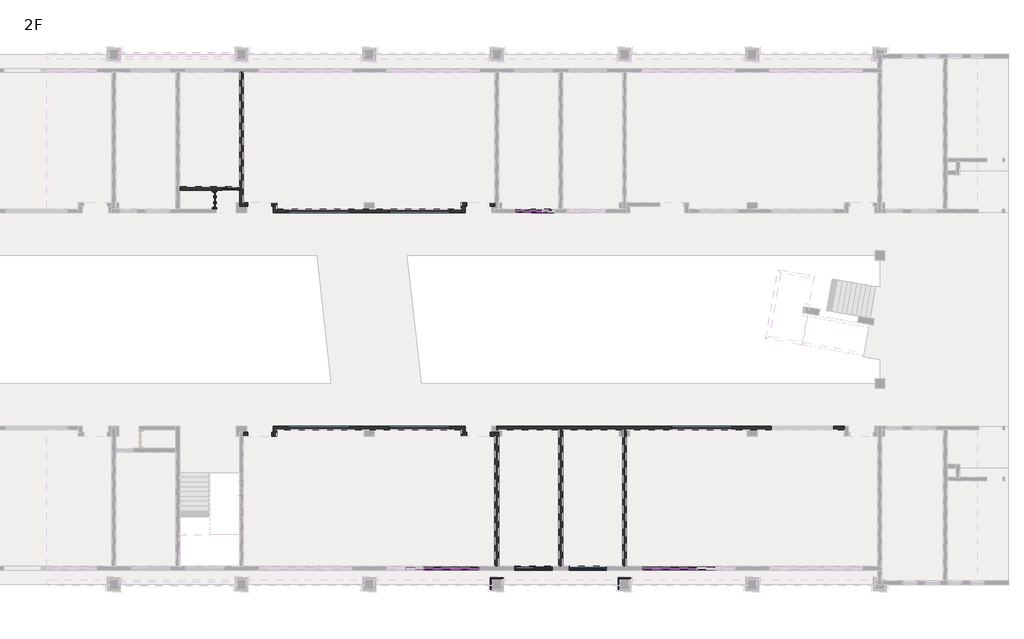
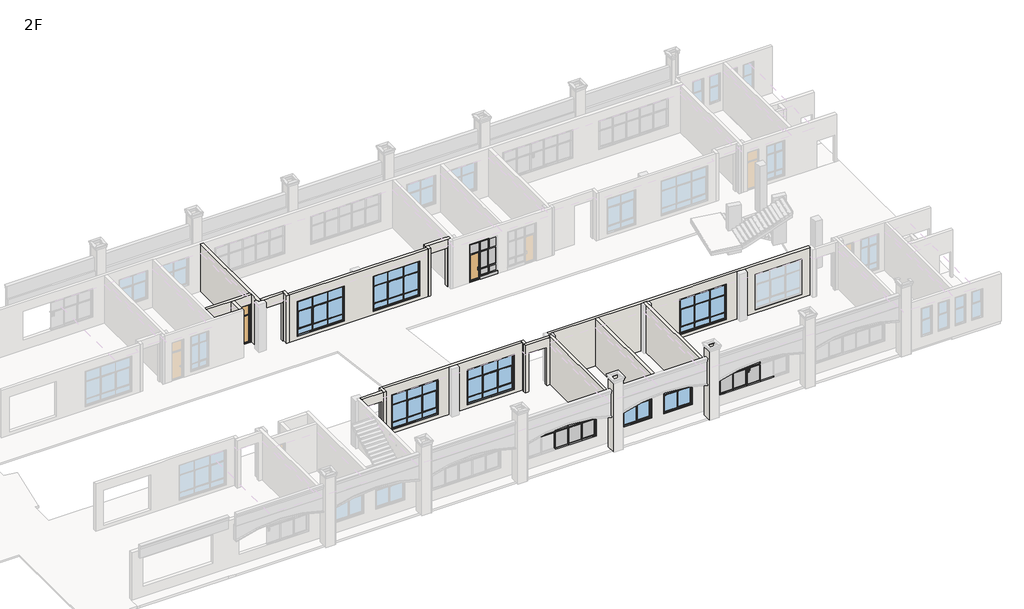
# One storey, part 4 of 16: 52 members, 21 walls, 17 plates, 7 windows, 3 doors.
"""IFC4 building model written with IfcOpenShell, lengths in millimetres."""

from ifc_helpers import new_model, si_unit, frame, origin, place, context, project, spatial, polyline, outline, extrude, faceted_brep, transform, mapped, element, save
from components import door_98f1c622, door_014e05d9, m2_m2_a1934b10, member_7564be38, member_1f4d75dd, member_0b7842ad, member_163d5e45, member_ffafc35e, member_2b011958, member_9c26cac3, member_6c42befd, member_a374fdad, member_d4bc27cc, member_3251d295, member_f9d68b3c, member_ef2f5788, member_68d13e3f, member_a211941a, member_adcc9943, member_f478ca5a, member_964d2677, member_b8dbbb25, member_8a69f4a4, member_c89433b5, member_21953a3b, member_fbd0fd80, member_b6ae775c, plate_f4dba16c, plate_1cc4df2b, plate_4fa5932a, plate_00f9c624, plate_18a10205, plate_942ffe46, plate_457c613e, plate_cc9028c0, plate_1c3dccf0, plate_5ac164bc, plate_3a849303, plate_0b4a2fd4, lc4_lc4_4954e093, lc5_lc5_223d64ff, lc5_lc5_9ec79463

model = new_model("IFC4")

# Units and contexts
model_context = context("Model", 3, world=origin())
ifc_project = project(units=[si_unit("LENGTHUNIT", "METRE", prefix="MILLI")], contexts=[model_context])

# Site, building, storey
site = spatial("IfcSite", under=ifc_project)
building = spatial("IfcBuilding", under=site)
storey = spatial("IfcBuildingStorey", under=building, Name="2F", Elevation=4200.0)

# Doors
placement = place(None, origin())
door_shape = door_98f1c622(model_context)
element("IfcDoor", 1, ObjectType="门嵌板_单开门2 : 门嵌板_单开门2", at=placement, inside=storey, context=model_context, shape_type="MappedRepresentation", body=[
    mapped(door_shape, transform((52699.9999993, 23399.6954639, 4300.0), x_axis=(-1.0, 0.0, 0.0), y_axis=(0.0, -1.0, 0.0), z_axis=(0.0, 0.0, 1.0))),
])
door_2_shape = door_014e05d9(model_context)
element("IfcDoor", 2, ObjectType="FM(丙）1 : FM(丙）1", at=placement, inside=storey, context=model_context, shape_type="MappedRepresentation", body=[
    mapped(door_2_shape, transform((33300.0000031, 24100.0, 4200.0), x_axis=(0.0, -1.0, 0.0), y_axis=(1.0, 0.0, 0.0), z_axis=(0.0, 0.0, 1.0))),
])
m2_m2_shape = m2_m2_a1934b10(model_context)
element("IfcDoor", 3, ObjectType="M2 : M2", at=placement, inside=storey, context=model_context, shape_type="MappedRepresentation", body=[
    mapped(m2_m2_shape, transform((34300.0000005, 24799.6954637, 4200.0), x_axis=(-1.0, 0.0, 0.0), y_axis=(0.0, -1.0, 0.0), z_axis=(0.0, 0.0, 1.0))),
])

# Members
member_shape = member_7564be38(model_context)
element("IfcMember", 4, ObjectType="矩形竖梃 : 教学楼 – 矩形竖梃 – 100x150mm", at=placement, inside=storey, context=model_context, shape_type="MappedRepresentation", body=[
    mapped(member_shape, transform((49900.0, 990.0, 7600.0), x_axis=(0.0, 0.0, 1.0), y_axis=(0.0, -1.0, 0.0), z_axis=(1.0, 0.0, 0.0))),
])
element("IfcMember", 5, ObjectType="矩形竖梃 : 教学楼 – 矩形竖梃 – 100x150mm", at=placement, inside=storey, context=model_context, shape_type="MappedRepresentation", body=[
    mapped(member_shape, transform((60100.0, 990.0, 5100.0), x_axis=(0.0, 0.0, -1.0), y_axis=(0.0, -1.0, 0.0), z_axis=(-1.0, 0.0, 0.0))),
])
member_2_shape = member_1f4d75dd(model_context)
element("IfcMember", 6, ObjectType="矩形竖梃 : 教学楼 – 矩形竖梃 – 50x150mm", at=placement, inside=storey, context=model_context, shape_type="MappedRepresentation", body=[
    mapped(member_2_shape, transform((46450.0, 990.0, 5200.0), x_axis=(1.0, 0.0, 0.0), y_axis=(0.0, -1.0, 0.0), z_axis=(0.0, 0.0, -1.0))),
])
element("IfcMember", 7, ObjectType="矩形竖梃 : 教学楼 – 矩形竖梃 – 50x150mm", at=placement, inside=storey, context=model_context, shape_type="MappedRepresentation", body=[
    mapped(member_2_shape, transform((47550.0, 990.0, 5200.0), x_axis=(1.0, 0.0, 0.0), y_axis=(0.0, -1.0, 0.0), z_axis=(0.0, 0.0, -1.0))),
])
element("IfcMember", 8, ObjectType="矩形竖梃 : 教学楼 – 矩形竖梃 – 50x150mm", at=placement, inside=storey, context=model_context, shape_type="MappedRepresentation", body=[
    mapped(member_2_shape, transform((62450.0, 990.0, 5200.0), x_axis=(1.0, 0.0, 0.0), y_axis=(0.0, -1.0, 0.0), z_axis=(0.0, 0.0, -1.0))),
])
element("IfcMember", 9, ObjectType="矩形竖梃 : 教学楼 – 矩形竖梃 – 50x150mm", at=placement, inside=storey, context=model_context, shape_type="MappedRepresentation", body=[
    mapped(member_2_shape, transform((63550.0, 990.0, 5200.0), x_axis=(1.0, 0.0, 0.0), y_axis=(0.0, -1.0, 0.0), z_axis=(0.0, 0.0, -1.0))),
])
member_3_shape = member_0b7842ad(model_context)
element("IfcMember", 10, ObjectType="矩形竖梃 : 教学楼 – 矩形竖梃 – 50x150mm", at=placement, inside=storey, context=model_context, shape_type="MappedRepresentation", body=[
    mapped(member_3_shape, transform((61300.0, 990.0, 6650.0), x_axis=(0.0, 0.0, 1.0), y_axis=(0.0, -1.0, 0.0), z_axis=(1.0, 0.0, 0.0))),
])
member_4_shape = member_163d5e45(model_context)
element("IfcMember", 11, ObjectType="矩形竖梃 : 教学楼 – 矩形竖梃 – 50x150mm", at=placement, inside=storey, context=model_context, shape_type="MappedRepresentation", body=[
    mapped(member_4_shape, transform((46450.0, 990.0, 6650.0), x_axis=(0.0, 0.0, 1.0), y_axis=(0.0, -1.0, 0.0), z_axis=(1.0, 0.0, 0.0))),
])
element("IfcMember", 12, ObjectType="矩形竖梃 : 教学楼 – 矩形竖梃 – 50x150mm", at=placement, inside=storey, context=model_context, shape_type="MappedRepresentation", body=[
    mapped(member_4_shape, transform((48700.0, 990.0, 6650.0), x_axis=(0.0, 0.0, 1.0), y_axis=(0.0, -1.0, 0.0), z_axis=(1.0, 0.0, 0.0))),
])
element("IfcMember", 13, ObjectType="矩形竖梃 : 教学楼 – 矩形竖梃 – 50x150mm", at=placement, inside=storey, context=model_context, shape_type="MappedRepresentation", body=[
    mapped(member_4_shape, transform((62450.0, 990.0, 6650.0), x_axis=(0.0, 0.0, 1.0), y_axis=(0.0, -1.0, 0.0), z_axis=(1.0, 0.0, 0.0))),
])
element("IfcMember", 14, ObjectType="矩形竖梃 : 教学楼 – 矩形竖梃 – 50x150mm", at=placement, inside=storey, context=model_context, shape_type="MappedRepresentation", body=[
    mapped(member_3_shape, transform((47550.0, 990.0, 6650.0), x_axis=(0.0, 0.0, 1.0), y_axis=(0.0, -1.0, 0.0), z_axis=(1.0, 0.0, 0.0))),
])
element("IfcMember", 15, ObjectType="矩形竖梃 : 教学楼 – 矩形竖梃 – 50x150mm", at=placement, inside=storey, context=model_context, shape_type="MappedRepresentation", body=[
    mapped(member_3_shape, transform((63550.0, 990.0, 6650.0), x_axis=(0.0, 0.0, 1.0), y_axis=(0.0, -1.0, 0.0), z_axis=(1.0, 0.0, 0.0))),
])
element("IfcMember", 16, ObjectType="矩形竖梃 : 教学楼 – 矩形竖梃 – 50x150mm", at=placement, inside=storey, context=model_context, shape_type="MappedRepresentation", body=[
    mapped(member_3_shape, transform((49800.0, 990.0, 6650.0), x_axis=(0.0, 0.0, 1.0), y_axis=(0.0, -1.0, 0.0), z_axis=(1.0, 0.0, 0.0))),
])
member_5_shape = member_ffafc35e(model_context)
element("IfcMember", 17, ObjectType="矩形竖梃 : 教学楼 – 矩形竖梃 – 100x150mm", at=placement, inside=storey, context=model_context, shape_type="MappedRepresentation", body=[
    mapped(member_5_shape, transform((61300.0, 990.0, 5100.0), x_axis=(0.0, 0.0, -1.0), y_axis=(0.0, -1.0, 0.0), z_axis=(-1.0, 0.0, 0.0))),
])
member_6_shape = member_2b011958(model_context)
element("IfcMember", 18, ObjectType="矩形竖梃 : 教学楼 – 矩形竖梃 – 100x150mm", at=placement, inside=storey, context=model_context, shape_type="MappedRepresentation", body=[
    mapped(member_6_shape, transform((46450.0, 990.0, 5100.0), x_axis=(0.0, 0.0, -1.0), y_axis=(0.0, -1.0, 0.0), z_axis=(-1.0, 0.0, 0.0))),
])
element("IfcMember", 19, ObjectType="矩形竖梃 : 教学楼 – 矩形竖梃 – 100x150mm", at=placement, inside=storey, context=model_context, shape_type="MappedRepresentation", body=[
    mapped(member_6_shape, transform((62450.0, 990.0, 5100.0), x_axis=(0.0, 0.0, -1.0), y_axis=(0.0, -1.0, 0.0), z_axis=(-1.0, 0.0, 0.0))),
])
element("IfcMember", 20, ObjectType="矩形竖梃 : 教学楼 – 矩形竖梃 – 100x150mm", at=placement, inside=storey, context=model_context, shape_type="MappedRepresentation", body=[
    mapped(member_5_shape, transform((47550.0, 990.0, 5100.0), x_axis=(0.0, 0.0, -1.0), y_axis=(0.0, -1.0, 0.0), z_axis=(-1.0, 0.0, 0.0))),
])
element("IfcMember", 21, ObjectType="矩形竖梃 : 教学楼 – 矩形竖梃 – 100x150mm", at=placement, inside=storey, context=model_context, shape_type="MappedRepresentation", body=[
    mapped(member_5_shape, transform((63550.0, 990.0, 5100.0), x_axis=(0.0, 0.0, -1.0), y_axis=(0.0, -1.0, 0.0), z_axis=(-1.0, 0.0, 0.0))),
])
element("IfcMember", 22, ObjectType="矩形竖梃 : 教学楼 – 矩形竖梃 – 100x150mm", at=placement, inside=storey, context=model_context, shape_type="MappedRepresentation", body=[
    mapped(member_shape, transform((48700.0, 990.0, 5100.0), x_axis=(0.0, 0.0, -1.0), y_axis=(0.0, -1.0, 0.0), z_axis=(-1.0, 0.0, 0.0))),
])
element("IfcMember", 23, ObjectType="矩形竖梃 : 教学楼 – 矩形竖梃 – 100x150mm", at=placement, inside=storey, context=model_context, shape_type="MappedRepresentation", body=[
    mapped(member_shape, transform((61300.0, 990.0, 7600.0), x_axis=(0.0, 0.0, 1.0), y_axis=(0.0, -1.0, 0.0), z_axis=(1.0, 0.0, 0.0))),
])
element("IfcMember", 24, ObjectType="矩形竖梃 : 教学楼 – 矩形竖梃 – 100x150mm", at=placement, inside=storey, context=model_context, shape_type="MappedRepresentation", body=[
    mapped(member_5_shape, transform((46450.0, 990.0, 7600.0), x_axis=(0.0, 0.0, 1.0), y_axis=(0.0, -1.0, 0.0), z_axis=(1.0, 0.0, 0.0))),
])
element("IfcMember", 25, ObjectType="矩形竖梃 : 教学楼 – 矩形竖梃 – 100x150mm", at=placement, inside=storey, context=model_context, shape_type="MappedRepresentation", body=[
    mapped(member_5_shape, transform((48700.0, 990.0, 7600.0), x_axis=(0.0, 0.0, 1.0), y_axis=(0.0, -1.0, 0.0), z_axis=(1.0, 0.0, 0.0))),
])
element("IfcMember", 26, ObjectType="矩形竖梃 : 教学楼 – 矩形竖梃 – 100x150mm", at=placement, inside=storey, context=model_context, shape_type="MappedRepresentation", body=[
    mapped(member_5_shape, transform((62450.0, 990.0, 7600.0), x_axis=(0.0, 0.0, 1.0), y_axis=(0.0, -1.0, 0.0), z_axis=(1.0, 0.0, 0.0))),
])
element("IfcMember", 27, ObjectType="矩形竖梃 : 教学楼 – 矩形竖梃 – 100x150mm", at=placement, inside=storey, context=model_context, shape_type="MappedRepresentation", body=[
    mapped(member_6_shape, transform((47550.0, 990.0, 7600.0), x_axis=(0.0, 0.0, 1.0), y_axis=(0.0, -1.0, 0.0), z_axis=(1.0, 0.0, 0.0))),
])
element("IfcMember", 28, ObjectType="矩形竖梃 : 教学楼 – 矩形竖梃 – 100x150mm", at=placement, inside=storey, context=model_context, shape_type="MappedRepresentation", body=[
    mapped(member_6_shape, transform((63550.0, 990.0, 7600.0), x_axis=(0.0, 0.0, 1.0), y_axis=(0.0, -1.0, 0.0), z_axis=(1.0, 0.0, 0.0))),
])
member_7_shape = member_9c26cac3(model_context)
element("IfcMember", 29, ObjectType="矩形竖梃 : 教学楼 – 矩形竖梃 – 50x150mm", at=placement, inside=storey, context=model_context, shape_type="MappedRepresentation", body=[
    mapped(member_7_shape, transform((46450.0, 990.0, 6675.0), x_axis=(1.0, 0.0, 0.0), y_axis=(0.0, -1.0, 0.0), z_axis=(0.0, 0.0, -1.0))),
])
element("IfcMember", 30, ObjectType="矩形竖梃 : 教学楼 – 矩形竖梃 – 50x150mm", at=placement, inside=storey, context=model_context, shape_type="MappedRepresentation", body=[
    mapped(member_7_shape, transform((47550.0, 990.0, 6675.0), x_axis=(1.0, 0.0, 0.0), y_axis=(0.0, -1.0, 0.0), z_axis=(0.0, 0.0, -1.0))),
])
element("IfcMember", 31, ObjectType="矩形竖梃 : 教学楼 – 矩形竖梃 – 50x150mm", at=placement, inside=storey, context=model_context, shape_type="MappedRepresentation", body=[
    mapped(member_7_shape, transform((48700.0, 990.0, 6675.0), x_axis=(1.0, 0.0, 0.0), y_axis=(0.0, -1.0, 0.0), z_axis=(0.0, 0.0, -1.0))),
])
element("IfcMember", 32, ObjectType="矩形竖梃 : 教学楼 – 矩形竖梃 – 50x150mm", at=placement, inside=storey, context=model_context, shape_type="MappedRepresentation", body=[
    mapped(member_7_shape, transform((61300.0, 990.0, 6675.0), x_axis=(1.0, 0.0, 0.0), y_axis=(0.0, -1.0, 0.0), z_axis=(0.0, 0.0, -1.0))),
])
element("IfcMember", 33, ObjectType="矩形竖梃 : 教学楼 – 矩形竖梃 – 50x150mm", at=placement, inside=storey, context=model_context, shape_type="MappedRepresentation", body=[
    mapped(member_7_shape, transform((62450.0, 990.0, 6675.0), x_axis=(1.0, 0.0, 0.0), y_axis=(0.0, -1.0, 0.0), z_axis=(0.0, 0.0, -1.0))),
])
element("IfcMember", 34, ObjectType="矩形竖梃 : 教学楼 – 矩形竖梃 – 50x150mm", at=placement, inside=storey, context=model_context, shape_type="MappedRepresentation", body=[
    mapped(member_7_shape, transform((63550.0, 990.0, 6675.0), x_axis=(1.0, 0.0, 0.0), y_axis=(0.0, -1.0, 0.0), z_axis=(0.0, 0.0, -1.0))),
])
member_8_shape = member_6c42befd(model_context)
element("IfcMember", 35, ObjectType="矩形竖梃 : 教学楼 – 矩形竖梃 – 100x150mm", at=placement, inside=storey, context=model_context, shape_type="MappedRepresentation", body=[
    mapped(member_8_shape, transform((60100.0, 990.0, 7500.0), x_axis=(-1.0, 0.0, 0.0), y_axis=(0.0, -1.0, 0.0), z_axis=(0.0, 0.0, 1.0))),
])
member_9_shape = member_a374fdad(model_context)
element("IfcMember", 36, ObjectType="矩形竖梃 : 教学楼 – 矩形竖梃 – 100x150mm", at=placement, inside=storey, context=model_context, shape_type="MappedRepresentation", body=[
    mapped(member_9_shape, transform((49900.0, 990.0, 5200.0), x_axis=(1.0, 0.0, 0.0), y_axis=(0.0, -1.0, 0.0), z_axis=(0.0, 0.0, -1.0))),
])
element("IfcMember", 37, ObjectType="矩形竖梃 : 教学楼 – 矩形竖梃 – 100x150mm", at=placement, inside=storey, context=model_context, shape_type="MappedRepresentation", body=[
    mapped(member_8_shape, transform((49900.0, 990.0, 6650.0), x_axis=(1.0, 0.0, 0.0), y_axis=(0.0, -1.0, 0.0), z_axis=(0.0, 0.0, -1.0))),
])
element("IfcMember", 38, ObjectType="矩形竖梃 : 教学楼 – 矩形竖梃 – 100x150mm", at=placement, inside=storey, context=model_context, shape_type="MappedRepresentation", body=[
    mapped(member_9_shape, transform((60100.0, 990.0, 6650.0), x_axis=(-1.0, 0.0, 0.0), y_axis=(0.0, -1.0, 0.0), z_axis=(0.0, 0.0, 1.0))),
])
member_10_shape = member_d4bc27cc(model_context)
element("IfcMember", 39, ObjectType="矩形竖梃 : 教学楼 – 矩形竖梃 – 100x150mm", at=placement, inside=storey, context=model_context, shape_type="MappedRepresentation", body=[
    mapped(member_10_shape, transform((52199.9999993, 23399.6954639, 4200.0), x_axis=(0.0, 0.0, -1.0), y_axis=(0.0, -1.0, 0.0), z_axis=(-1.0, 0.0, 0.0))),
])
member_11_shape = member_3251d295(model_context)
element("IfcMember", 40, ObjectType="矩形竖梃 : 教学楼 – 矩形竖梃 – 50x150mm", at=placement, inside=storey, context=model_context, shape_type="MappedRepresentation", body=[
    mapped(member_11_shape, transform((53124.9999993, 23399.6954639, 4300.0), x_axis=(1.0, 0.0, 0.0), y_axis=(0.0, -1.0, 0.0), z_axis=(0.0, 0.0, -1.0))),
])
element("IfcMember", 41, ObjectType="矩形竖梃 : 教学楼 – 矩形竖梃 – 50x150mm", at=placement, inside=storey, context=model_context, shape_type="MappedRepresentation", body=[
    mapped(member_7_shape, transform((53124.9999993, 23399.6954639, 6625.0), x_axis=(0.0, 0.0, 1.0), y_axis=(0.0, -1.0, 0.0), z_axis=(1.0, 0.0, 0.0))),
])
member_12_shape = member_f9d68b3c(model_context)
element("IfcMember", 42, ObjectType="矩形竖梃 : 教学楼 – 矩形竖梃 – 50x150mm", at=placement, inside=storey, context=model_context, shape_type="MappedRepresentation", body=[
    mapped(member_12_shape, transform((53874.9999997, 23399.6954639, 6625.0), x_axis=(0.0, 0.0, 1.0), y_axis=(0.0, -1.0, 0.0), z_axis=(1.0, 0.0, 0.0))),
])
member_13_shape = member_ef2f5788(model_context)
element("IfcMember", 43, ObjectType="矩形竖梃 : 教学楼 – 矩形竖梃 – 50x150mm", at=placement, inside=storey, context=model_context, shape_type="MappedRepresentation", body=[
    mapped(member_13_shape, transform((53874.9999997, 23399.6954639, 5075.0), x_axis=(0.0, 0.0, 1.0), y_axis=(0.0, -1.0, 0.0), z_axis=(1.0, 0.0, 0.0))),
])
member_14_shape = member_68d13e3f(model_context)
element("IfcMember", 44, ObjectType="矩形竖梃 : 教学楼 – 矩形竖梃 – 50x150mm", at=placement, inside=storey, context=model_context, shape_type="MappedRepresentation", body=[
    mapped(member_14_shape, transform((53874.9999997, 23399.6954639, 4500.0), x_axis=(0.0, 0.0, 1.0), y_axis=(0.0, -1.0, 0.0), z_axis=(1.0, 0.0, 0.0))),
])
member_15_shape = member_a211941a(model_context)
element("IfcMember", 45, ObjectType="矩形竖梃 : 教学楼 – 矩形竖梃 – 100x150mm", at=placement, inside=storey, context=model_context, shape_type="MappedRepresentation", body=[
    mapped(member_15_shape, transform((53124.9999993, 23399.6954639, 7600.0), x_axis=(0.0, 0.0, 1.0), y_axis=(0.0, -1.0, 0.0), z_axis=(1.0, 0.0, 0.0))),
])
member_16_shape = member_adcc9943(model_context)
element("IfcMember", 46, ObjectType="矩形竖梃 : 教学楼 – 矩形竖梃 – 100x150mm", at=placement, inside=storey, context=model_context, shape_type="MappedRepresentation", body=[
    mapped(member_16_shape, transform((53874.9999997, 23399.6954639, 7600.0), x_axis=(0.0, 0.0, 1.0), y_axis=(0.0, -1.0, 0.0), z_axis=(1.0, 0.0, 0.0))),
])
member_17_shape = member_f478ca5a(model_context)
element("IfcMember", 47, ObjectType="矩形竖梃 : 教学楼 – 矩形竖梃 – 50x150mm", at=placement, inside=storey, context=model_context, shape_type="MappedRepresentation", body=[
    mapped(member_17_shape, transform((53124.9999993, 23399.6954639, 6650.0), x_axis=(1.0, 0.0, 0.0), y_axis=(0.0, -1.0, 0.0), z_axis=(0.0, 0.0, -1.0))),
])
element("IfcMember", 48, ObjectType="矩形竖梃 : 教学楼 – 矩形竖梃 – 50x150mm", at=placement, inside=storey, context=model_context, shape_type="MappedRepresentation", body=[
    mapped(member_17_shape, transform((53874.9999997, 23399.6954639, 6650.0), x_axis=(1.0, 0.0, 0.0), y_axis=(0.0, -1.0, 0.0), z_axis=(0.0, 0.0, -1.0))),
])
member_18_shape = member_964d2677(model_context)
element("IfcMember", 49, ObjectType="矩形竖梃 : 教学楼 – 矩形竖梃 – 50x150mm", at=placement, inside=storey, context=model_context, shape_type="MappedRepresentation", body=[
    mapped(member_18_shape, transform((53124.9999993, 23399.6954639, 5100.0), x_axis=(1.0, 0.0, 0.0), y_axis=(0.0, -1.0, 0.0), z_axis=(0.0, 0.0, -1.0))),
])
member_19_shape = member_b8dbbb25(model_context)
element("IfcMember", 50, ObjectType="矩形竖梃 : 教学楼 – 矩形竖梃 – 50x150mm", at=placement, inside=storey, context=model_context, shape_type="MappedRepresentation", body=[
    mapped(member_19_shape, transform((53124.9999993, 23399.6954639, 4500.0), x_axis=(1.0, 0.0, 0.0), y_axis=(0.0, -1.0, 0.0), z_axis=(0.0, 0.0, -1.0))),
])
member_20_shape = member_8a69f4a4(model_context)
element("IfcMember", 51, ObjectType="矩形竖梃 : 教学楼 – 矩形竖梃 – 50x150mm", at=placement, inside=storey, context=model_context, shape_type="MappedRepresentation", body=[
    mapped(member_20_shape, transform((53874.9999997, 23399.6954639, 4525.0), x_axis=(1.0, 0.0, 0.0), y_axis=(0.0, -1.0, 0.0), z_axis=(0.0, 0.0, -1.0))),
])
member_21_shape = member_c89433b5(model_context)
element("IfcMember", 52, ObjectType="矩形竖梃 : 教学楼 – 矩形竖梃 – 100x150mm", at=placement, inside=storey, context=model_context, shape_type="MappedRepresentation", body=[
    mapped(member_21_shape, transform((52199.9999993, 23399.6954639, 7500.0), x_axis=(-1.0, 0.0, 0.0), y_axis=(0.0, -1.0, 0.0), z_axis=(0.0, 0.0, 1.0))),
])
member_22_shape = member_21953a3b(model_context)
element("IfcMember", 53, ObjectType="矩形竖梃 : 教学楼 – 矩形竖梃 – 100x150mm", at=placement, inside=storey, context=model_context, shape_type="MappedRepresentation", body=[
    mapped(member_22_shape, transform((52199.9999993, 23399.6954639, 6625.0), x_axis=(-1.0, 0.0, 0.0), y_axis=(0.0, -1.0, 0.0), z_axis=(0.0, 0.0, 1.0))),
])
member_23_shape = member_fbd0fd80(model_context)
element("IfcMember", 54, ObjectType="矩形竖梃 : 教学楼 – 矩形竖梃 – 100x150mm", at=placement, inside=storey, context=model_context, shape_type="MappedRepresentation", body=[
    mapped(member_23_shape, transform((52199.9999993, 23399.6954639, 5075.0), x_axis=(-1.0, 0.0, 0.0), y_axis=(0.0, -1.0, 0.0), z_axis=(0.0, 0.0, 1.0))),
])
member_24_shape = member_b6ae775c(model_context)
element("IfcMember", 55, ObjectType="矩形竖梃 : 教学楼 – 矩形竖梃 – 100x150mm", at=placement, inside=storey, context=model_context, shape_type="MappedRepresentation", body=[
    mapped(member_24_shape, transform((52199.9999993, 23399.6954639, 4500.0), x_axis=(-1.0, 0.0, 0.0), y_axis=(0.0, -1.0, 0.0), z_axis=(0.0, 0.0, 1.0))),
])

# Plates
element("IfcPlate", 56, ObjectType="教学楼 – 涂料内墙 – 200mm", at=placement, inside=storey, context=model_context, shape_type="SweptSolid", body=[
    extrude(outline(polyline([(54599.9999997, 23282.6954639), (53149.9999993, 23282.6954639), (53149.9999993, 23516.6954639), (54599.9999997, 23516.6954639), (54599.9999997, 23282.6954639)])), frame((0.0, 0.0, 4200.0), z_axis=(0.0, 0.0, 1.0), x_axis=(1.0, 0.0, 0.0)), (0.0, 0.0, 1.0), 275.0),
])
plate_shape = plate_f4dba16c(model_context)
element("IfcPlate", 57, ObjectType="系统嵌板 : 玻璃", at=placement, inside=storey, context=model_context, shape_type="MappedRepresentation", body=[
    mapped(plate_shape, transform((47000.0, 990.0, 5200.0), x_axis=(1.0, 0.0, 0.0), y_axis=(0.0, 1.0, 0.0), z_axis=(0.0, 0.0, 1.0))),
])
plate_2_shape = plate_1cc4df2b(model_context)
element("IfcPlate", 58, ObjectType="系统嵌板 : 玻璃", at=placement, inside=storey, context=model_context, shape_type="MappedRepresentation", body=[
    mapped(plate_2_shape, transform((49262.5, 990.0, 6675.0), x_axis=(1.0, 0.0, 0.0), y_axis=(0.0, 1.0, 0.0), z_axis=(0.0, 0.0, 1.0))),
])
element("IfcPlate", 59, ObjectType="系统嵌板 : 玻璃", at=placement, inside=storey, context=model_context, shape_type="MappedRepresentation", body=[
    mapped(plate_2_shape, transform((60737.5, 990.0, 6675.0), x_axis=(1.0, 0.0, 0.0), y_axis=(0.0, 1.0, 0.0), z_axis=(0.0, 0.0, 1.0))),
])
plate_3_shape = plate_4fa5932a(model_context)
element("IfcPlate", 60, ObjectType="系统嵌板 : 玻璃", at=placement, inside=storey, context=model_context, shape_type="MappedRepresentation", body=[
    mapped(plate_3_shape, transform((48125.0, 990.0, 6675.0), x_axis=(1.0, 0.0, 0.0), y_axis=(0.0, 1.0, 0.0), z_axis=(0.0, 0.0, 1.0))),
])
element("IfcPlate", 61, ObjectType="系统嵌板 : 玻璃", at=placement, inside=storey, context=model_context, shape_type="MappedRepresentation", body=[
    mapped(plate_3_shape, transform((61875.0, 990.0, 6675.0), x_axis=(1.0, 0.0, 0.0), y_axis=(0.0, 1.0, 0.0), z_axis=(0.0, 0.0, 1.0))),
])
plate_4_shape = plate_00f9c624(model_context)
element("IfcPlate", 62, ObjectType="系统嵌板 : 玻璃", at=placement, inside=storey, context=model_context, shape_type="MappedRepresentation", body=[
    mapped(plate_4_shape, transform((47000.0, 990.0, 6675.0), x_axis=(1.0, 0.0, 0.0), y_axis=(0.0, 1.0, 0.0), z_axis=(0.0, 0.0, 1.0))),
])
element("IfcPlate", 63, ObjectType="系统嵌板 : 玻璃", at=placement, inside=storey, context=model_context, shape_type="MappedRepresentation", body=[
    mapped(plate_4_shape, transform((63000.0, 990.0, 6675.0), x_axis=(1.0, 0.0, 0.0), y_axis=(0.0, 1.0, 0.0), z_axis=(0.0, 0.0, 1.0))),
])
plate_5_shape = plate_18a10205(model_context)
element("IfcPlate", 64, ObjectType="教学楼 - 窗嵌板：双扇推拉窗 : 教学楼 - 窗嵌板：双扇推拉窗", at=placement, inside=storey, context=model_context, shape_type="MappedRepresentation", body=[
    mapped(plate_5_shape, transform((61312.5, 990.0, 5200.0), x_axis=(1.0, 0.0, 0.0), y_axis=(0.0, 1.0, 0.0), z_axis=(0.0, 0.0, 1.0))),
])
element("IfcPlate", 65, ObjectType="教学楼 - 窗嵌板：双扇推拉窗 : 教学楼 - 窗嵌板：双扇推拉窗", at=placement, inside=storey, context=model_context, shape_type="MappedRepresentation", body=[
    mapped(plate_5_shape, transform((48687.5, 990.0, 5200.0), x_axis=(1.0, 0.0, 0.0), y_axis=(0.0, 1.0, 0.0), z_axis=(0.0, 0.0, 1.0))),
])
plate_6_shape = plate_942ffe46(model_context)
element("IfcPlate", 66, ObjectType="教学楼 - 窗嵌板：外贴消防通道 : 教学楼 - 窗嵌板：外贴消防通道", at=placement, inside=storey, context=model_context, shape_type="MappedRepresentation", body=[
    mapped(plate_6_shape, transform((63000.0, 990.0, 5200.0), x_axis=(1.0, 0.0, 0.0), y_axis=(0.0, 1.0, 0.0), z_axis=(0.0, 0.0, 1.0))),
])
plate_7_shape = plate_457c613e(model_context)
element("IfcPlate", 67, ObjectType="系统嵌板 : 玻璃", at=placement, inside=storey, context=model_context, shape_type="MappedRepresentation", body=[
    mapped(plate_7_shape, transform((52699.9999993, 23399.6954639, 6650.0), x_axis=(1.0, 0.0, 0.0), y_axis=(0.0, 1.0, 0.0), z_axis=(0.0, 0.0, 1.0))),
])
plate_8_shape = plate_cc9028c0(model_context)
element("IfcPlate", 68, ObjectType="系统嵌板 : 玻璃", at=placement, inside=storey, context=model_context, shape_type="MappedRepresentation", body=[
    mapped(plate_8_shape, transform((53499.9999995, 23399.6954639, 6650.0), x_axis=(1.0, 0.0, 0.0), y_axis=(0.0, 1.0, 0.0), z_axis=(0.0, 0.0, 1.0))),
])
plate_9_shape = plate_1c3dccf0(model_context)
element("IfcPlate", 69, ObjectType="系统嵌板 : 玻璃", at=placement, inside=storey, context=model_context, shape_type="MappedRepresentation", body=[
    mapped(plate_9_shape, transform((54199.9999997, 23399.6954639, 6650.0), x_axis=(1.0, 0.0, 0.0), y_axis=(0.0, 1.0, 0.0), z_axis=(0.0, 0.0, 1.0))),
])
plate_10_shape = plate_5ac164bc(model_context)
element("IfcPlate", 70, ObjectType="教学楼 - 窗嵌板：双扇推拉窗 : 教学楼 - 窗嵌板：双扇推拉窗", at=placement, inside=storey, context=model_context, shape_type="MappedRepresentation", body=[
    mapped(plate_10_shape, transform((53824.9999995, 23399.6954639, 5100.0), x_axis=(1.0, 0.0, 0.0), y_axis=(0.0, 1.0, 0.0), z_axis=(0.0, 0.0, 1.0))),
])
plate_11_shape = plate_3a849303(model_context)
element("IfcPlate", 71, ObjectType="系统嵌板 : 玻璃", at=placement, inside=storey, context=model_context, shape_type="MappedRepresentation", body=[
    mapped(plate_11_shape, transform((53499.9999995, 23399.6954639, 4525.0), x_axis=(1.0, 0.0, 0.0), y_axis=(0.0, 1.0, 0.0), z_axis=(0.0, 0.0, 1.0))),
])
plate_12_shape = plate_0b4a2fd4(model_context)
element("IfcPlate", 72, ObjectType="系统嵌板 : 玻璃", at=placement, inside=storey, context=model_context, shape_type="MappedRepresentation", body=[
    mapped(plate_12_shape, transform((54199.9999997, 23399.6954639, 4525.0), x_axis=(1.0, 0.0, 0.0), y_axis=(0.0, 1.0, 0.0), z_axis=(0.0, 0.0, 1.0))),
])

# Walls
element("IfcWall", 73, ObjectType="教学楼 – 涂料内墙 – 200mm", at=placement, inside=storey, context=model_context, shape_type="Brep", body=[
    faceted_brep([(34883.0, 32075.0, 4200.0), (34883.0, 24916.6954638, 4200.0), (34883.0, 24682.6954638, 4200.0), (34883.0, 23917.0, 4200.0), (34883.0, 23682.7231012, 4200.0), (34883.0, 23682.7231012, 8400.0), (34883.0, 23917.0, 8400.0), (34883.0, 24682.6954638, 8400.0), (34883.0, 24916.6954638, 8400.0), (34883.0, 32075.0, 8400.0), (35117.0, 32075.0, 4200.0), (35117.0, 32075.0, 8400.0), (35117.0, 23917.0, 8400.0), (35117.0, 23916.7231012, 8400.0), (35117.0, 23682.7231012, 8400.0), (35117.0, 23682.7231012, 4200.0), (35117.0, 23916.7231012, 4200.0), (35117.0, 23917.0, 4200.0)], [[[0, 1, 2, 3, 4, 5, 6, 7, 8, 9]], [[10, 11, 12, 13, 14, 15, 16, 17]], [[4, 3, 2, 1, 0, 10, 17, 16, 15]], [[9, 8, 7, 6, 5, 14, 13, 12, 11]], [[5, 4, 15, 14]], [[0, 9, 11, 10]]]),
])
element("IfcWall", 74, ObjectType="教学楼 – 涂料内墙 – 200mm", at=placement, inside=storey, context=model_context, shape_type="Brep", body=[
    faceted_brep([(48783.0000007, 23916.7231007, 8400.0), (50683.0, 23916.7231007, 8400.0), (50883.0, 23916.7231007, 8400.0), (50883.0, 23916.7231007, 4200.0), (50683.0, 23916.7231007, 4200.0), (50599.9999991, 23916.7231007, 4200.0), (50599.9999991, 23916.7231007, 7600.0), (49099.9999991, 23916.7231007, 7600.0), (49099.9999991, 23916.7231007, 4200.0), (48783.0000007, 23916.7231007, 4200.0), (50883.0, 23682.7231007, 8400.0), (50683.0, 23682.7231007, 8400.0), (49017.0000007, 23682.7231007, 8400.0), (48783.0000007, 23682.7231007, 8400.0), (48783.0000007, 23682.7231007, 4200.0), (49017.0000007, 23682.7231007, 4200.0), (49099.9999991, 23682.7231007, 4200.0), (49099.9999991, 23682.7231007, 7600.0), (50599.9999991, 23682.7231007, 7600.0), (50599.9999991, 23682.7231007, 4200.0), (50683.0, 23682.7231007, 4200.0), (50883.0, 23682.7231007, 4200.0)], [[[0, 1, 2, 3, 4, 5, 6, 7, 8, 9]], [[10, 11, 12, 13, 14, 15, 16, 17, 18, 19, 20, 21]], [[14, 9, 8, 16, 15]], [[3, 21, 20, 19, 5, 4]], [[2, 1, 0, 13, 12, 11, 10]], [[0, 9, 14, 13]], [[3, 2, 10, 21]], [[7, 17, 16, 8]], [[17, 7, 6, 18]], [[18, 6, 5, 19]]]),
])
element("IfcWall", 75, ObjectType="教学楼 – 涂料内墙 – 200mm", at=placement, inside=storey, context=model_context, shape_type="Brep", body=[
    faceted_brep([(48783.0000007, 23682.7231007, 4200.0), (48783.0000007, 23516.695464, 4200.0), (48783.0000007, 23282.695464, 4200.0), (48783.0000007, 23282.695464, 8400.0), (48783.0000007, 23516.695464, 8400.0), (48783.0000007, 23682.7231007, 8400.0), (49017.0000007, 23682.7231007, 4200.0), (49017.0000007, 23682.7231007, 8400.0), (49017.0000007, 23282.695464, 8400.0), (49017.0000007, 23282.695464, 4200.0)], [[[0, 1, 2, 3, 4, 5]], [[6, 7, 8, 9]], [[2, 1, 0, 6, 9]], [[5, 4, 3, 8, 7]], [[0, 5, 7, 6]], [[3, 2, 9, 8]]]),
])
element("IfcWall", 76, ObjectType="教学楼 – 涂料内墙 – 200mm", at=placement, inside=storey, context=model_context, shape_type="Brep", body=[
    faceted_brep([(48783.0000007, 23516.695464, 4200.0), (43317.0, 23516.695464, 4200.0), (42683.0, 23516.695464, 4200.0), (37216.999999, 23516.695464, 4200.0), (37216.999999, 23516.695464, 8400.0), (42683.0, 23516.695464, 8400.0), (43317.0, 23516.695464, 8400.0), (48783.0000007, 23516.695464, 8400.0), (44209.9999984, 23516.695464, 4500.0), (48109.9999984, 23516.695464, 4500.0), (48109.9999984, 23516.695464, 7600.0), (44209.9999984, 23516.695464, 7600.0), (37900.0, 23516.695464, 4500.0), (41800.0, 23516.695464, 4500.0), (41800.0, 23516.695464, 7600.0), (37900.0, 23516.695464, 7600.0), (48783.0000007, 23282.695464, 4200.0), (48783.0000007, 23282.695464, 8400.0), (37216.999999, 23282.695464, 8400.0), (37216.999999, 23282.695464, 4200.0), (44209.9999984, 23282.695464, 4500.0), (44209.9999984, 23282.695464, 7600.0), (48109.9999984, 23282.695464, 7600.0), (48109.9999984, 23282.695464, 4500.0), (37900.0, 23282.695464, 4500.0), (37900.0, 23282.695464, 7600.0), (41800.0, 23282.695464, 7600.0), (41800.0, 23282.695464, 4500.0)], [[[0, 1, 2, 3, 4, 5, 6, 7], [8, 9, 10, 11], [12, 13, 14, 15]], [[16, 17, 18, 19], [20, 21, 22, 23], [24, 25, 26, 27]], [[3, 2, 1, 0, 16, 19]], [[7, 6, 5, 4, 18, 17]], [[0, 7, 17, 16]], [[4, 3, 19, 18]], [[21, 20, 8, 11]], [[22, 21, 11, 10]], [[23, 22, 10, 9]], [[20, 23, 9, 8]], [[25, 24, 12, 15]], [[26, 25, 15, 14]], [[27, 26, 14, 13]], [[24, 27, 13, 12]]]),
])
element("IfcWall", 77, ObjectType="教学楼 – 涂料内墙 – 200mm", at=placement, inside=storey, context=model_context, shape_type="Brep", body=[
    faceted_brep([(37216.999999, 23282.695464, 4200.0), (37216.999999, 23516.695464, 4200.0), (37216.999999, 23916.7231012, 4200.0), (37216.999999, 23916.7231012, 8400.0), (37216.999999, 23516.695464, 8400.0), (37216.999999, 23282.695464, 8400.0), (36982.999999, 23282.695464, 4200.0), (36982.999999, 23282.695464, 8400.0), (36982.999999, 23682.7231012, 8400.0), (36982.999999, 23916.7231012, 8400.0), (36982.999999, 23916.7231012, 4200.0), (36982.999999, 23682.7231012, 4200.0)], [[[0, 1, 2, 3, 4, 5]], [[6, 7, 8, 9, 10, 11]], [[2, 1, 0, 6, 11, 10]], [[5, 4, 3, 9, 8, 7]], [[3, 2, 10, 9]], [[0, 5, 7, 6]]]),
])
element("IfcWall", 78, ObjectType="教学楼 – 涂料内墙 – 200mm", at=placement, inside=storey, context=model_context, shape_type="Brep", body=[
    faceted_brep([(35117.0, 23916.7231012, 8400.0), (35317.0, 23916.7231012, 8400.0), (36982.999999, 23916.7231012, 8400.0), (36982.999999, 23916.7231012, 4200.0), (36900.0000009, 23916.7231012, 4200.0), (36900.0000009, 23916.7231012, 7600.0), (35400.0000009, 23916.7231012, 7600.0), (35400.0000009, 23916.7231012, 4200.0), (35317.0, 23916.7231012, 4200.0), (35117.0, 23916.7231012, 4200.0), (36982.999999, 23682.7231012, 8400.0), (35317.0, 23682.7231012, 8400.0), (35117.0, 23682.7231012, 8400.0), (35117.0, 23682.7231012, 4200.0), (35317.0, 23682.7231012, 4200.0), (35400.0000009, 23682.7231012, 4200.0), (35400.0000009, 23682.7231012, 7600.0), (36900.0000009, 23682.7231012, 7600.0), (36900.0000009, 23682.7231012, 4200.0), (36982.999999, 23682.7231012, 4200.0)], [[[0, 1, 2, 3, 4, 5, 6, 7, 8, 9]], [[10, 11, 12, 13, 14, 15, 16, 17, 18, 19]], [[3, 19, 18, 4]], [[13, 9, 8, 7, 15, 14]], [[2, 1, 0, 12, 11, 10]], [[3, 2, 10, 19]], [[0, 9, 13, 12]], [[6, 16, 15, 7]], [[16, 6, 5, 17]], [[17, 5, 4, 18]]]),
])
element("IfcWall", 79, ObjectType="教学楼 – 涂料内墙 – 200mm", at=placement, inside=storey, context=model_context, shape_type="Brep", body=[
    faceted_brep([(31117.0000029, 24916.6954638, 8400.0), (34883.0, 24916.6954638, 8400.0), (34883.0, 24916.6954638, 4200.0), (34800.0000005, 24916.6954638, 4200.0), (34800.0000005, 24916.6954638, 7600.0), (33800.0000005, 24916.6954638, 7600.0), (33800.0000005, 24916.6954638, 4200.0), (31117.0000029, 24916.6954638, 4200.0), (34883.0, 24682.6954638, 8400.0), (33417.0000031, 24682.6954638, 8400.0), (33183.0000031, 24682.6954638, 8400.0), (31117.0000029, 24682.6954638, 8400.0), (31117.0000029, 24682.6954638, 4200.0), (33183.0000031, 24682.6954638, 4200.0), (33417.0000031, 24682.6954638, 4200.0), (33800.0000005, 24682.6954638, 4200.0), (33800.0000005, 24682.6954638, 7600.0), (34800.0000005, 24682.6954638, 7600.0), (34800.0000005, 24682.6954638, 4200.0), (34883.0, 24682.6954638, 4200.0)], [[[0, 1, 2, 3, 4, 5, 6, 7]], [[8, 9, 10, 11, 12, 13, 14, 15, 16, 17, 18, 19]], [[12, 7, 6, 15, 14, 13]], [[2, 19, 18, 3]], [[1, 0, 11, 10, 9, 8]], [[0, 7, 12, 11]], [[2, 1, 8, 19]], [[5, 16, 15, 6]], [[16, 5, 4, 17]], [[17, 4, 3, 18]]]),
])
element("IfcWall", 80, ObjectType="教学楼 – 涂料内墙 – 200mm", at=placement, inside=storey, context=model_context, shape_type="SweptSolid", body=[
    extrude(outline(polyline([(23516.6954638, 8400.0), (24682.6954638, 8400.0), (24682.6954638, 4200.0), (24600.0, 4200.0), (24600.0, 6300.0), (23600.0, 6300.0), (23600.0, 4200.0), (23516.6954638, 4200.0), (23516.6954638, 8400.0)])), frame((33183.0000031, 0.0, 0.0), z_axis=(1.0, 0.0, 0.0), x_axis=(0.0, 1.0, 0.0)), (0.0, 0.0, 1.0), 234.0),
])
element("IfcWall", 81, ObjectType="教学楼 – 涂料内墙 – 200mm", at=placement, inside=storey, context=model_context, shape_type="Brep", body=[
    faceted_brep([(51117.0, 1125.0, 4200.0), (51117.0, 9283.0, 4200.0), (51117.0, 9517.2768993, 4200.0), (51117.0, 9517.2768993, 8400.0), (51117.0, 9283.0, 8400.0), (51117.0, 1125.0, 8400.0), (50883.0, 1125.0, 4200.0), (50883.0, 1125.0, 8400.0), (50883.0, 9283.0, 8400.0), (50883.0, 9283.2768993, 8400.0), (50883.0, 9517.2768993, 8400.0), (50883.0, 9517.2768993, 4200.0), (50883.0, 9283.2768993, 4200.0), (50883.0, 9283.0, 4200.0)], [[[0, 1, 2, 3, 4, 5]], [[6, 7, 8, 9, 10, 11, 12, 13]], [[2, 1, 0, 6, 13, 12, 11]], [[5, 4, 3, 10, 9, 8, 7]], [[3, 2, 11, 10]], [[0, 5, 7, 6]]]),
])
element("IfcWall", 82, ObjectType="教学楼 – 涂料内墙 – 200mm", at=placement, inside=storey, context=model_context, shape_type="Brep", body=[
    faceted_brep([(51000.0, 9683.3045361, 4200.0), (51317.0, 9683.3045361, 4200.0), (54882.9999999, 9683.3045361, 4200.0), (55116.9999999, 9683.3045361, 4200.0), (58683.0, 9683.3045361, 4200.0), (58883.0, 9683.3045361, 4200.0), (59117.0, 9683.3045361, 4200.0), (59317.0, 9683.3045361, 4200.0), (66683.0, 9683.3045361, 4200.0), (67317.0, 9683.3045361, 4200.0), (72783.0, 9683.3045361, 4200.0), (72783.0, 9683.3045361, 8400.0), (67317.0, 9683.3045361, 8400.0), (66683.0, 9683.3045361, 8400.0), (59317.0, 9683.3045361, 8400.0), (59117.0, 9683.3045361, 8400.0), (58883.0, 9683.3045361, 8400.0), (58683.0, 9683.3045361, 8400.0), (55116.9999999, 9683.3045361, 8400.0), (54882.9999999, 9683.3045361, 8400.0), (51317.0, 9683.3045361, 8400.0), (51000.0, 9683.3045361, 8400.0), (68199.9999993, 9683.3045361, 4500.0), (68199.9999993, 9683.3045361, 7600.0), (72099.9999993, 9683.3045361, 7600.0), (72099.9999993, 9683.3045361, 4500.0), (61899.9999993, 9683.3045361, 4500.0), (61899.9999993, 9683.3045361, 7600.0), (65799.9999993, 9683.3045361, 7600.0), (65799.9999993, 9683.3045361, 4500.0), (51000.0, 9917.3045361, 4200.0), (51000.0, 9917.3045361, 8400.0), (72783.0, 9917.3045361, 8400.0), (72783.0, 9917.3045361, 4200.0), (68199.9999993, 9917.3045361, 4500.0), (72099.9999993, 9917.3045361, 4500.0), (72099.9999993, 9917.3045361, 7600.0), (68199.9999993, 9917.3045361, 7600.0), (61899.9999993, 9917.3045361, 4500.0), (65799.9999993, 9917.3045361, 4500.0), (65799.9999993, 9917.3045361, 7600.0), (61899.9999993, 9917.3045361, 7600.0), (51000.0, 9917.0, 4200.0), (51000.0, 9917.0, 8400.0)], [[[0, 1, 2, 3, 4, 5, 6, 7, 8, 9, 10, 11, 12, 13, 14, 15, 16, 17, 18, 19, 20, 21], [22, 23, 24, 25], [26, 27, 28, 29]], [[30, 31, 32, 33], [34, 35, 36, 37], [38, 39, 40, 41]], [[10, 9, 8, 7, 6, 5, 4, 3, 2, 1, 0, 42, 30, 33]], [[21, 20, 19, 18, 17, 16, 15, 14, 13, 12, 11, 32, 31, 43]], [[0, 21, 43, 31, 30, 42]], [[11, 10, 33, 32]], [[23, 22, 34, 37]], [[24, 23, 37, 36]], [[25, 24, 36, 35]], [[22, 25, 35, 34]], [[27, 26, 38, 41]], [[28, 27, 41, 40]], [[29, 28, 40, 39]], [[26, 29, 39, 38]]]),
])
element("IfcWall", 83, ObjectType="教学楼 – 涂料内墙 – 200mm", at=placement, inside=storey, context=model_context, shape_type="Brep", body=[
    faceted_brep([(48783.0000007, 9517.2768993, 8400.0), (49017.0000007, 9517.2768993, 8400.0), (50683.0, 9517.2768993, 8400.0), (50883.0, 9517.2768993, 8400.0), (50883.0, 9517.2768993, 4200.0), (50683.0, 9517.2768993, 4200.0), (50599.9999991, 9517.2768993, 4200.0), (50599.9999991, 9517.2768993, 7600.0), (49099.9999991, 9517.2768993, 7600.0), (49099.9999991, 9517.2768993, 4200.0), (49017.0000007, 9517.2768993, 4200.0), (48783.0000007, 9517.2768993, 4200.0), (50883.0, 9283.2768993, 8400.0), (50683.0, 9283.2768993, 8400.0), (48783.0000007, 9283.2768993, 8400.0), (48783.0000007, 9283.2768993, 4200.0), (49099.9999991, 9283.2768993, 4200.0), (49099.9999991, 9283.2768993, 7600.0), (50599.9999991, 9283.2768993, 7600.0), (50599.9999991, 9283.2768993, 4200.0), (50683.0, 9283.2768993, 4200.0), (50883.0, 9283.2768993, 4200.0)], [[[0, 1, 2, 3, 4, 5, 6, 7, 8, 9, 10, 11]], [[12, 13, 14, 15, 16, 17, 18, 19, 20, 21]], [[15, 11, 10, 9, 16]], [[4, 21, 20, 19, 6, 5]], [[3, 2, 1, 0, 14, 13, 12]], [[0, 11, 15, 14]], [[4, 3, 12, 21]], [[18, 7, 6, 19]], [[7, 18, 17, 8]], [[8, 17, 16, 9]]]),
])
element("IfcWall", 84, ObjectType="教学楼 – 涂料内墙 – 200mm", at=placement, inside=storey, context=model_context, shape_type="Brep", body=[
    faceted_brep([(49017.0000007, 9517.2768993, 4200.0), (49017.0000007, 9917.304536, 4200.0), (49017.0000007, 9917.304536, 8400.0), (49017.0000007, 9517.2768993, 8400.0), (48783.0000007, 9517.2768993, 4200.0), (48783.0000007, 9517.2768993, 8400.0), (48783.0000007, 9683.304536, 8400.0), (48783.0000007, 9917.304536, 8400.0), (48783.0000007, 9917.304536, 4200.0), (48783.0000007, 9683.304536, 4200.0)], [[[0, 1, 2, 3]], [[4, 5, 6, 7, 8, 9]], [[1, 0, 4, 9, 8]], [[3, 2, 7, 6, 5]], [[0, 3, 5, 4]], [[2, 1, 8, 7]]]),
])
element("IfcWall", 85, ObjectType="教学楼 – 涂料内墙 – 200mm", at=placement, inside=storey, context=model_context, shape_type="Brep", body=[
    faceted_brep([(48783.0000007, 9917.304536, 4200.0), (37216.999999, 9917.304536, 4200.0), (37216.999999, 9917.304536, 8400.0), (48783.0000007, 9917.304536, 8400.0), (48099.9999993, 9917.304536, 4500.0), (48099.9999993, 9917.304536, 7600.0), (44199.9999993, 9917.304536, 7600.0), (44199.9999993, 9917.304536, 4500.0), (41799.9999993, 9917.304536, 4500.0), (41799.9999993, 9917.304536, 7600.0), (37899.9999993, 9917.304536, 7600.0), (37899.9999993, 9917.304536, 4500.0), (48783.0000007, 9683.304536, 4200.0), (48783.0000007, 9683.304536, 8400.0), (43317.0, 9683.304536, 8400.0), (42683.0, 9683.304536, 8400.0), (37216.999999, 9683.304536, 8400.0), (37216.999999, 9683.304536, 4200.0), (42683.0, 9683.304536, 4200.0), (43317.0, 9683.304536, 4200.0), (48099.9999993, 9683.304536, 4500.0), (44199.9999993, 9683.304536, 4500.0), (44199.9999993, 9683.304536, 7600.0), (48099.9999993, 9683.304536, 7600.0), (41799.9999993, 9683.304536, 4500.0), (37899.9999993, 9683.304536, 4500.0), (37899.9999993, 9683.304536, 7600.0), (41799.9999993, 9683.304536, 7600.0)], [[[0, 1, 2, 3], [4, 5, 6, 7], [8, 9, 10, 11]], [[12, 13, 14, 15, 16, 17, 18, 19], [20, 21, 22, 23], [24, 25, 26, 27]], [[1, 0, 12, 19, 18, 17]], [[3, 2, 16, 15, 14, 13]], [[0, 3, 13, 12]], [[2, 1, 17, 16]], [[5, 4, 20, 23]], [[6, 5, 23, 22]], [[7, 6, 22, 21]], [[4, 7, 21, 20]], [[9, 8, 24, 27]], [[10, 9, 27, 26]], [[11, 10, 26, 25]], [[8, 11, 25, 24]]]),
])
element("IfcWall", 86, ObjectType="教学楼 – 涂料内墙 – 200mm", at=placement, inside=storey, context=model_context, shape_type="Brep", body=[
    faceted_brep([(36982.999999, 9917.304536, 4200.0), (36982.999999, 9517.2768988, 4200.0), (36982.999999, 9283.2768988, 4200.0), (36982.999999, 9283.2768988, 8400.0), (36982.999999, 9517.2768988, 8400.0), (36982.999999, 9917.304536, 8400.0), (37216.999999, 9917.304536, 4200.0), (37216.999999, 9917.304536, 8400.0), (37216.999999, 9683.304536, 8400.0), (37216.999999, 9283.2768988, 8400.0), (37216.999999, 9283.2768988, 4200.0), (37216.999999, 9683.304536, 4200.0)], [[[0, 1, 2, 3, 4, 5]], [[6, 7, 8, 9, 10, 11]], [[2, 1, 0, 6, 11, 10]], [[5, 4, 3, 9, 8, 7]], [[3, 2, 10, 9]], [[0, 5, 7, 6]]]),
])
element("IfcWall", 87, ObjectType="教学楼 – 涂料内墙 – 200mm", at=placement, inside=storey, context=model_context, shape_type="Brep", body=[
    faceted_brep([(35117.0, 9517.2768988, 8400.0), (35317.0, 9517.2768988, 8400.0), (36982.999999, 9517.2768988, 8400.0), (36982.999999, 9517.2768988, 4200.0), (36900.0000009, 9517.2768988, 4200.0), (36900.0000009, 9517.2768988, 7600.0), (35400.0000009, 9517.2768988, 7600.0), (35400.0000009, 9517.2768988, 4200.0), (35317.0, 9517.2768988, 4200.0), (35117.0, 9517.2768988, 4200.0), (36982.999999, 9283.2768988, 8400.0), (35317.0, 9283.2768988, 8400.0), (35117.0, 9283.2768988, 8400.0), (35117.0, 9283.2768988, 4200.0), (35317.0, 9283.2768988, 4200.0), (35400.0000009, 9283.2768988, 4200.0), (35400.0000009, 9283.2768988, 7600.0), (36900.0000009, 9283.2768988, 7600.0), (36900.0000009, 9283.2768988, 4200.0), (36982.999999, 9283.2768988, 4200.0)], [[[0, 1, 2, 3, 4, 5, 6, 7, 8, 9]], [[10, 11, 12, 13, 14, 15, 16, 17, 18, 19]], [[3, 19, 18, 4]], [[13, 9, 8, 7, 15, 14]], [[2, 1, 0, 12, 11, 10]], [[3, 2, 10, 19]], [[0, 9, 13, 12]], [[17, 5, 4, 18]], [[5, 17, 16, 6]], [[6, 16, 15, 7]]]),
])
element("IfcWall", 88, ObjectType="教学楼 – 涂料内墙 – 200mm", at=placement, inside=storey, context=model_context, shape_type="SweptSolid", body=[
    extrude(outline(polyline([(55116.9999999, 9683.3045361), (55116.9999999, 1125.0), (54882.9999999, 1125.0), (54882.9999999, 9683.3045361), (55116.9999999, 9683.3045361)])), frame((0.0, 0.0, 4200.0), z_axis=(0.0, 0.0, 1.0), x_axis=(1.0, 0.0, 0.0)), (0.0, 0.0, 1.0), 4200.0),
])
element("IfcWall", 89, ObjectType="教学楼 – 涂料内墙 – 200mm", at=placement, inside=storey, context=model_context, shape_type="Brep", body=[
    faceted_brep([(59117.0, 1125.0, 4200.0), (59117.0, 9283.0, 4200.0), (59117.0, 9683.3045361, 4200.0), (59117.0, 9683.3045361, 8400.0), (59117.0, 9283.0, 8400.0), (59117.0, 1125.0, 8400.0), (58883.0, 1125.0, 4200.0), (58883.0, 1125.0, 8400.0), (58883.0, 9283.0, 8400.0), (58883.0, 9683.3045361, 8400.0), (58883.0, 9683.3045361, 4200.0), (58883.0, 9283.0, 4200.0)], [[[0, 1, 2, 3, 4, 5]], [[6, 7, 8, 9, 10, 11]], [[2, 1, 0, 6, 11, 10]], [[5, 4, 3, 9, 8, 7]], [[0, 5, 7, 6]], [[3, 2, 10, 9]]]),
])
element("IfcWall", 90, ObjectType="教学楼 - 浅驼色装饰板 - 50mm", at=placement, inside=storey, context=model_context, shape_type="Brep", body=[
    faceted_brep([(50600.0, 400.359792, 4200.0), (50600.0, -350.0, 4200.0), (50600.0, -350.0, 10300.0), (50600.0, 400.359792, 10300.0), (50650.0, 400.359792, 4200.0), (50650.0, 400.359792, 10300.0), (50650.0, 350.359792, 10300.0), (50650.0, -350.0, 10300.0), (50650.0, -350.0, 4200.0), (50650.0, 350.359792, 4200.0)], [[[0, 1, 2, 3]], [[4, 5, 6, 7, 8, 9]], [[1, 0, 4, 9, 8]], [[3, 2, 7, 6, 5]], [[0, 3, 5, 4]], [[2, 1, 8, 7]]]),
])
element("IfcWall", 91, ObjectType="教学楼 - 浅驼色装饰板 - 50mm", at=placement, inside=storey, context=model_context, shape_type="Brep", body=[
    faceted_brep([(51400.0, 400.359792, 4200.0), (50650.0, 400.359792, 4200.0), (50650.0, 400.359792, 10300.0), (51400.0, 400.359792, 10300.0), (51400.0, 350.359792, 4200.0), (51400.0, 350.359792, 10300.0), (51350.0, 350.359792, 10300.0), (50650.0, 350.359792, 10300.0), (50650.0, 350.359792, 4200.0), (51350.0, 350.359792, 4200.0)], [[[0, 1, 2, 3]], [[4, 5, 6, 7, 8, 9]], [[1, 0, 4, 9, 8]], [[3, 2, 7, 6, 5]], [[0, 3, 5, 4]], [[2, 1, 8, 7]]]),
])
element("IfcWall", 92, ObjectType="教学楼 - 浅驼色装饰板 - 50mm", at=placement, inside=storey, context=model_context, shape_type="Brep", body=[
    faceted_brep([(58600.0, 400.359792, 4200.0), (58600.0, -350.0, 4200.0), (58600.0, -350.0, 10300.0), (58600.0, 400.359792, 10300.0), (58650.0, 400.359792, 4200.0), (58650.0, 400.359792, 10300.0), (58650.0, 350.359792, 10300.0), (58650.0, -350.0, 10300.0), (58650.0, -350.0, 4200.0), (58650.0, 350.359792, 4200.0)], [[[0, 1, 2, 3]], [[4, 5, 6, 7, 8, 9]], [[1, 0, 4, 9, 8]], [[3, 2, 7, 6, 5]], [[0, 3, 5, 4]], [[2, 1, 8, 7]]]),
])
element("IfcWall", 93, ObjectType="教学楼 - 浅驼色装饰板 - 50mm", at=placement, inside=storey, context=model_context, shape_type="Brep", body=[
    faceted_brep([(59400.0, 400.359792, 4200.0), (58650.0, 400.359792, 4200.0), (58650.0, 400.359792, 10300.0), (59400.0, 400.359792, 10300.0), (59400.0, 350.359792, 4200.0), (59400.0, 350.359792, 10300.0), (59350.0, 350.359792, 10300.0), (58650.0, 350.359792, 10300.0), (58650.0, 350.359792, 4200.0), (59350.0, 350.359792, 4200.0)], [[[0, 1, 2, 3]], [[4, 5, 6, 7, 8, 9]], [[1, 0, 4, 9, 8]], [[3, 2, 7, 6, 5]], [[0, 3, 5, 4]], [[2, 1, 8, 7]]]),
])

# Windows
lc4_lc4_shape = lc4_lc4_4954e093(model_context)
element("IfcWindow", 94, ObjectType="LC4 : LC4", at=placement, inside=storey, context=model_context, shape_type="MappedRepresentation", body=[
    mapped(lc4_lc4_shape, transform((53299.9999999, 1008.6988661, 4200.0), x_axis=(-1.0, 0.0, 0.0), y_axis=(0.0, -1.0, 0.0), z_axis=(0.0, 0.0, 1.0))),
])
element("IfcWindow", 95, ObjectType="LC4 : LC4", at=placement, inside=storey, context=model_context, shape_type="MappedRepresentation", body=[
    mapped(lc4_lc4_shape, transform((56699.9999993, 991.3011339, 4200.0), x_axis=(1.0, 0.0, 0.0), y_axis=(0.0, 1.0, 0.0), z_axis=(0.0, 0.0, 1.0))),
])
lc5_lc5_shape = lc5_lc5_223d64ff(model_context)
element("IfcWindow", 96, ObjectType="LC5 : LC5", at=placement, inside=storey, context=model_context, shape_type="MappedRepresentation", body=[
    mapped(lc5_lc5_shape, transform((39850.0, 23399.695464, 4200.0), x_axis=(1.0, 0.0, 0.0), y_axis=(0.0, 1.0, 0.0), z_axis=(0.0, 0.0, 1.0))),
])
element("IfcWindow", 97, ObjectType="LC5 : LC5", at=placement, inside=storey, context=model_context, shape_type="MappedRepresentation", body=[
    mapped(lc5_lc5_shape, transform((46159.9999984, 23399.695464, 4200.0), x_axis=(1.0, 0.0, 0.0), y_axis=(0.0, 1.0, 0.0), z_axis=(0.0, 0.0, 1.0))),
])
lc5_lc5_2_shape = lc5_lc5_9ec79463(model_context)
element("IfcWindow", 98, ObjectType="LC5 : LC5", at=placement, inside=storey, context=model_context, shape_type="MappedRepresentation", body=[
    mapped(lc5_lc5_2_shape, transform((39849.9999993, 9800.304536, 4200.0), x_axis=(-1.0, 0.0, 0.0), y_axis=(0.0, -1.0, 0.0), z_axis=(0.0, 0.0, 1.0))),
])
element("IfcWindow", 99, ObjectType="LC5 : LC5", at=placement, inside=storey, context=model_context, shape_type="MappedRepresentation", body=[
    mapped(lc5_lc5_2_shape, transform((46149.9999993, 9800.304536, 4200.0), x_axis=(-1.0, 0.0, 0.0), y_axis=(0.0, -1.0, 0.0), z_axis=(0.0, 0.0, 1.0))),
])
element("IfcWindow", 100, ObjectType="LC5 : LC5", at=placement, inside=storey, context=model_context, shape_type="MappedRepresentation", body=[
    mapped(lc5_lc5_2_shape, transform((63849.9999993, 9800.3045361, 4200.0), x_axis=(1.0, 0.0, 0.0), y_axis=(0.0, 1.0, 0.0), z_axis=(0.0, 0.0, 1.0))),
])

save(model, "model.ifc")
